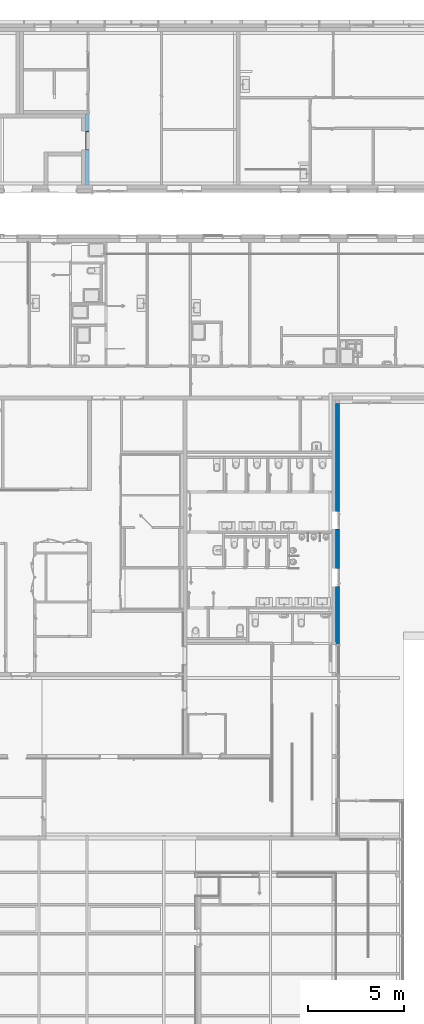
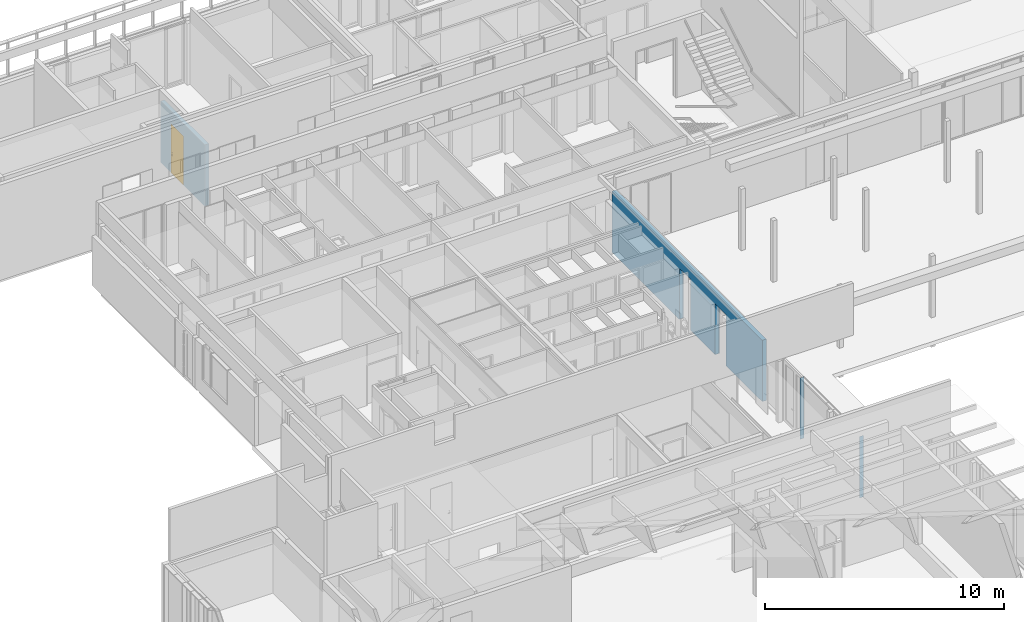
# One storey, part 209 of 240: 1 door, 1 wall, 1 opening, plus 1 element that does not belong to this part.
"""IFC2X3 building model written with IfcOpenShell, lengths in centimetres."""

from ifc_helpers import new_model, entity, si_unit, converted_unit, derived_unit, direction, frame, frame_2d, origin, place, context, subcontext, project, spatial, rectangle, extrude, faceted_brep, source, transform, mapped, material, material_list, layer, layer_set, layer_usage, type_object, type_shapes, element, fill, save


model = new_model("IFC2X3")

# Units and contexts
model_context = context("Model", 3, precision=0.001, world=origin(), true_north=direction((6.12303176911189e-17, 1.0)))
body_context = subcontext(model_context, "Body", "Model", "MODEL_VIEW")
ifc_project = project(units=[si_unit("LENGTHUNIT", "METRE", prefix="CENTI"), si_unit("AREAUNIT", "SQUARE_METRE"), si_unit("VOLUMEUNIT", "CUBIC_METRE"), converted_unit("PLANEANGLEUNIT", "DEGREE", entity("IfcRatioMeasure", 0.0174532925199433), si_unit("PLANEANGLEUNIT", "RADIAN"), dimensions=[0, 0, 0, 0, 0, 0, 0]), si_unit("MASSUNIT", "GRAM", prefix="KILO"), derived_unit("MASSDENSITYUNIT", [(si_unit("MASSUNIT", "GRAM", prefix="KILO"), 1), (si_unit("LENGTHUNIT", "METRE"), -3)]), si_unit("TIMEUNIT", "SECOND"), si_unit("FREQUENCYUNIT", "HERTZ"), si_unit("THERMODYNAMICTEMPERATUREUNIT", "DEGREE_CELSIUS"), derived_unit("THERMALTRANSMITTANCEUNIT", [(si_unit("MASSUNIT", "GRAM", prefix="KILO"), 1), (si_unit("THERMODYNAMICTEMPERATUREUNIT", "KELVIN"), -1), (si_unit("TIMEUNIT", "SECOND"), -3)]), derived_unit("VOLUMETRICFLOWRATEUNIT", [(si_unit("LENGTHUNIT", "METRE"), 3), (si_unit("TIMEUNIT", "SECOND"), -1)]), si_unit("ELECTRICCURRENTUNIT", "AMPERE"), si_unit("ELECTRICVOLTAGEUNIT", "VOLT"), si_unit("POWERUNIT", "WATT"), si_unit("FORCEUNIT", "NEWTON", prefix="KILO"), si_unit("ILLUMINANCEUNIT", "LUX"), si_unit("LUMINOUSFLUXUNIT", "LUMEN"), si_unit("LUMINOUSINTENSITYUNIT", "CANDELA"), derived_unit("USERDEFINED", [(si_unit("MASSUNIT", "GRAM", prefix="KILO"), -1), (si_unit("LENGTHUNIT", "METRE"), -2), (si_unit("TIMEUNIT", "SECOND"), 3), (si_unit("LUMINOUSFLUXUNIT", "LUMEN"), 1)]), derived_unit("LINEARVELOCITYUNIT", [(si_unit("LENGTHUNIT", "METRE"), 1), (si_unit("TIMEUNIT", "SECOND"), -1)]), si_unit("PRESSUREUNIT", "PASCAL"), derived_unit("USERDEFINED", [(si_unit("LENGTHUNIT", "METRE"), -2), (si_unit("MASSUNIT", "GRAM", prefix="KILO"), 1), (si_unit("TIMEUNIT", "SECOND"), -2)])], contexts=[model_context])

# Site, building, storey
site_placement = place(None, frame((-2781.94577612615, 7442.24238424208, 0.0)))
site = spatial("IfcSite", under=ifc_project, at=site_placement, Name="Default", CompositionType="ELEMENT")
building_placement = place(site_placement, origin())
building = spatial("IfcBuilding", under=site, at=building_placement, CompositionType="ELEMENT")
storey_placement = place(building_placement, origin())
storey = spatial("IfcBuildingStorey", under=building, at=storey_placement, Name="N00 - COO", CompositionType="ELEMENT", Elevation=0.0)

# Wall
ifc_material_1 = material(Name="Aluminium bardage")
ifc_layer_1 = layer(ifc_material_1, 0.5)
ifc_material_2 = material(Name="01 - Lame d'air")
ifc_layer_2 = layer(ifc_material_2, 1.5)
ifc_material_3 = material(Name="00 - Isolant")
ifc_layer_3 = layer(ifc_material_3, 18.0)
ifc_layer_set_1 = layer_set([ifc_layer_1, ifc_layer_2, ifc_layer_3], Name="Mur de base:04 - Parement - ITE 18cm + vide 2cm")
wall_type_1 = type_object("IfcWallType", Name="Mur de base:04 - Parement - ITE 18cm + vide 2cm", PredefinedType="STANDARD", material=ifc_layer_set_1)
wall_1_placement = place(building_placement, frame((-8891.93218005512, -4015.27903364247, 0.0), z_axis=(0.0, 0.0, 1.0), x_axis=(0.0, 1.0, 0.0)))
element("IfcWall", 1, at=wall_1_placement, inside=storey, type_object=wall_type_1, Name="Mur de base:04 - Parement - ITE 18cm + vide 2cm", ObjectType="Mur de base:04 - Parement - ITE 18cm + vide 2cm", context=body_context, shape_type="Brep", body=[
    faceted_brep([(0.0, -10.0, 313.0), (0.0, -10.0, 0.0), (0.200000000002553, -10.0, 0.0), (0.200000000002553, -10.0, 313.0), (0.0, 10.0, 0.0), (0.200000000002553, 10.0, 0.0), (0.0, 10.0, 313.0), (0.200000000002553, 10.0, 313.0)], [[[0, 1, 2, 3]], [[1, 4, 5, 2]], [[1, 0, 6, 4]], [[3, 2, 5, 7]], [[6, 0, 3, 7]], [[4, 6, 7, 5]]]),
    faceted_brep([(1205.19999999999, 10.0, 0.0), (1205.19999999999, 10.0, 260.0), (1112.2, 10.0, 260.0), (1112.2, 10.0, 0.0), (824.200000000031, 10.0, 0.0), (810.2, 10.0, 0.0), (810.2, 10.0, 313.0), (2065.20000000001, 10.0, 313.0), (2065.20000000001, 10.0, 0.0), (1503.2, 10.0, 0.0), (1503.2, 10.0, 260.0), (1410.20000000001, 10.0, 260.0), (1410.20000000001, 10.0, 0.0), (2065.20000000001, -10.0, 313.0), (810.2, -10.0, 313.0), (1114.2, -8.79999999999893, 258.0), (1114.2, -10.0, 258.0), (1114.2, -10.0, 0.0), (1114.2, -8.79999999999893, 0.0), (1203.2, -8.7999999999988, 258.0), (1203.2, -8.7999999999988, 0.0), (1203.2, -10.0, 0.0), (1203.2, -10.0, 258.0), (1112.2, -8.79999999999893, 0.0), (1112.2, -8.79999999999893, 260.0), (1205.19999999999, -8.79999999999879, 260.0), (1205.19999999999, -8.79999999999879, 0.0), (1205.19999999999, -8.0, 0.0), (1112.2, -8.0, 0.0), (1501.2, -10.0, 258.0), (1501.2, -8.80000000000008, 258.0), (1501.2, -8.80000000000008, 0.0), (1501.2, -10.0, 0.0), (1412.2, -8.80000000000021, 0.0), (1412.2, -8.80000000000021, 258.0), (1412.2, -10.0, 258.0), (1412.2, -10.0, 0.0), (1410.20000000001, -8.80000000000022, 0.0), (1410.20000000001, -8.80000000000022, 260.0), (1503.2, -8.80000000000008, 260.0), (1503.2, -8.80000000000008, 0.0), (1410.20000000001, -8.0, 0.0), (1503.2, -8.0, 0.0), (810.2, -10.0, 0.0), (2065.20000000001, -10.0, 0.0)], [[[0, 1, 2, 3, 4, 5, 6, 7, 8, 9, 10, 11, 12]], [[13, 7, 6, 14]], [[15, 16, 17, 18]], [[19, 20, 21, 22]], [[15, 19, 22, 16]], [[19, 15, 18, 23, 24, 25, 26, 20]], [[26, 25, 1, 0, 27]], [[24, 23, 28, 3, 2]], [[25, 24, 2, 1]], [[29, 30, 31, 32]], [[33, 34, 35, 36]], [[34, 30, 29, 35]], [[30, 34, 33, 37, 38, 39, 40, 31]], [[38, 37, 41, 12, 11]], [[40, 39, 10, 9, 42]], [[39, 38, 11, 10]], [[43, 14, 6, 5]], [[13, 44, 8, 7]], [[21, 20, 26, 27, 0, 12, 41, 37, 33, 36]], [[32, 31, 40, 42, 9, 8, 44]], [[18, 17, 43, 5, 4, 3, 28, 23]], [[17, 16, 22, 21, 36, 35, 29, 32, 44, 13, 14, 43]]]),
    faceted_brep([(494.507227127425, -10.0, 313.0), (494.507227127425, -10.0, 0.0), (494.507227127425, 10.0, 0.0), (494.507227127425, 10.0, 313.0), (494.200000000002, -10.0, 0.0), (494.200000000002, -10.0, 313.0), (494.200000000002, 10.0, 313.0), (494.200000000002, 10.0, 0.0)], [[[0, 1, 2, 3]], [[4, 5, 6, 7]], [[0, 3, 6, 5]], [[2, 1, 4, 7]], [[3, 2, 7, 6]], [[1, 0, 5, 4]]]),
])

# Wall, opening, door
ifc_layer_4 = layer(ifc_material_3, 17.7)
ifc_material_4 = material(Name="01 - Enduit/Plâtre")
ifc_layer_5 = layer(ifc_material_4, 1.3)
ifc_layer_set_2 = layer_set([ifc_layer_4, ifc_layer_5], Name="Mur de base:04 - Parement -  isolant 20 cm + BA13 2")
ifc_layer_usage = layer_usage(ifc_layer_set_2, "AXIS2", "POSITIVE", -9.5)
wall_type_2 = type_object("IfcWallType", Name="Mur de base:04 - Parement -  isolant 20 cm + BA13 2", PredefinedType="STANDARD", material=ifc_layer_set_2)
wall_2_placement = place(building_placement, frame((-10196.9998776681, -440.0, 0.0), z_axis=(0.0, 0.0, 1.0), x_axis=(0.0, -1.0, 0.0)))
wall_2 = element("IfcWallStandardCase", 2, at=wall_2_placement, inside=storey, type_object=wall_type_2, material=ifc_layer_usage, Name="Mur de base:04 - Parement -  isolant 20 cm + BA13 2", ObjectType="Mur de base:04 - Parement -  isolant 20 cm + BA13 2", context=body_context, shape_type="SweptSolid", body=[
    extrude(rectangle(XDim=370.0, YDim=18.9999999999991, at=frame_2d((185.0, 0.0), x_axis=(-1.0, 0.0))), origin(), (0.0, 0.0, 1.0), 313.0),
])
opening_placement = place(wall_2_placement, frame((189.0, 9.5, 0.0)))
opening = element("IfcOpeningElement", 3, at=opening_placement, cuts=wall_2, Name="Int. Simple:PP simple (0.93m x 2.50m):1", ObjectType="Opening", context=body_context, shape_type="SweptSolid", body=[
    extrude(rectangle(XDim=248.500000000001, YDim=99.9999999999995, at=frame_2d((124.250000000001, 49.9999999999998), x_axis=(1.0, 0.0))), frame((0.0, 0.0, 0.0), z_axis=(0.0, -1.0, 0.0), x_axis=(0.0, 0.0, 1.0)), (0.0, 0.0, 1.0), 19.0),
])
ifc_material_5 = material(Name="Finition Peinture - Blanc satiné")
ifc_material_6 = material(Name="Bois - Panneau de porte")
ifc_material_7 = material(Name="Bois - Cadre de porte")
ifc_material_list_1 = material_list([ifc_material_5, ifc_material_6, ifc_material_7])
ifc_material_list_2 = material_list([ifc_material_5, ifc_material_6, ifc_material_7])
door_style = type_object("IfcDoorStyle", Name="PP simple (0.93m x 2.50m)", ConstructionType="NOTDEFINED", OperationType="SINGLE_SWING_LEFT", ParameterTakesPrecedence=False, Sizeable=False, material=ifc_material_list_2)
shared_shape = source(origin(), body_context, "Body", "Brep", [
    faceted_brep([(10.5352761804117, -0.500000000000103, 86.6003983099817), (11.5000000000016, -0.500000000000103, 87.0), (11.5000000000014, -0.500000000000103, 108.0), (10.5352761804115, -0.500000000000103, 108.399601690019), (9.50000000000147, -0.500000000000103, 108.535898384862), (8.46472381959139, -0.500000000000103, 108.399601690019), (7.50000000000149, -0.500000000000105, 108.0), (7.50000000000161, -0.500000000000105, 87.0), (8.46472381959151, -0.500000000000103, 86.6003983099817), (9.50000000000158, -0.500000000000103, 86.464101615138), (10.5352761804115, 0.0, 108.399601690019), (11.5000000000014, 0.0, 108.0), (11.5000000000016, 0.0, 87.0), (10.5352761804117, 0.0, 86.6003983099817), (9.50000000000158, 0.0, 86.464101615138), (8.46472381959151, 0.0, 86.6003983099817), (7.50000000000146, 0.0, 87.0), (7.50000000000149, 0.0, 108.0), (8.46472381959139, 0.0, 108.399601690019), (9.50000000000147, 0.0, 108.535898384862)], [[[0, 1, 2, 3, 4, 5, 6, 7, 8, 9]], [[10, 11, 12, 13, 14, 15, 16, 17, 18, 19]], [[16, 15, 8, 7]], [[8, 15, 14, 9]], [[14, 13, 0, 9]], [[13, 12, 1, 0]], [[2, 1, 12, 11]], [[11, 10, 3, 2]], [[3, 10, 19, 4]], [[19, 18, 5, 4]], [[18, 17, 6, 5]], [[7, 6, 17, 16]]]),
    faceted_brep([(10.5352761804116, 4.0, 86.6003983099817), (11.5000000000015, 4.0, 87.0), (11.5000000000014, 4.0, 108.0), (10.5352761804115, 4.0, 108.399601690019), (9.50000000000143, 4.0, 108.535898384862), (8.46472381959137, 4.0, 108.399601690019), (7.50000000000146, 4.0, 108.0), (7.50000000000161, 4.0, 87.0), (8.46472381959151, 4.0, 86.6003983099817), (9.50000000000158, 4.0, 86.464101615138), (10.5352761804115, 4.49999999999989, 108.399601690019), (11.5000000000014, 4.4999999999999, 108.0), (11.5000000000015, 4.4999999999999, 87.0), (10.5352761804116, 4.49999999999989, 86.6003983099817), (9.50000000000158, 4.49999999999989, 86.464101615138), (8.46472381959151, 4.49999999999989, 86.6003983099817), (7.50000000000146, 4.49999999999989, 87.0), (7.50000000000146, 4.49999999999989, 108.0), (8.46472381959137, 4.49999999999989, 108.399601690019), (9.50000000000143, 4.49999999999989, 108.535898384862)], [[[0, 1, 2, 3, 4, 5, 6, 7, 8, 9]], [[10, 11, 12, 13, 14, 15, 16, 17, 18, 19]], [[11, 10, 3, 2]], [[3, 10, 19, 4]], [[19, 18, 5, 4]], [[18, 17, 6, 5]], [[7, 6, 17, 16]], [[16, 15, 8, 7]], [[8, 15, 14, 9]], [[14, 13, 0, 9]], [[13, 12, 1, 0]], [[2, 1, 12, 11]]]),
    faceted_brep([(9.29747013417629, -0.500000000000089, 100.778044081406), (9.70252986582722, -0.500000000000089, 100.778044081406), (10.1000000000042, -0.500000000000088, 100.699999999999), (10.1000000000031, -0.500000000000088, 99.3000000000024), (9.7025298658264, -0.500000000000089, 99.2219559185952), (9.29747013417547, -0.500000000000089, 99.221955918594), (8.8999999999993, -0.500000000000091, 99.2999999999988), (8.89999999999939, -0.500000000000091, 100.7), (8.89999999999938, -3.26509507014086, 100.7), (9.29747013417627, -3.10045754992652, 100.778044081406), (10.9023585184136, -4.70534593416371, 100.778044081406), (11.0701397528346, -4.30028620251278, 100.778044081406), (9.7025298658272, -2.93267631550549, 100.778044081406), (10.1000000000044, -2.76803879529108, 100.7), (10.1000000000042, -2.76803879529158, 99.3000000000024), (9.7025298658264, -2.93267631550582, 99.2219559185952), (11.0701397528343, -4.30028620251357, 99.2219559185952), (10.9023585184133, -4.70534593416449, 99.221955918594), (9.29747013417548, -3.10045754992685, 99.221955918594), (8.89999999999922, -3.26509507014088, 99.2999999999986), (10.7377209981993, -5.1028160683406, 100.7), (11.2347772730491, -3.90281606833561, 100.7), (11.2347772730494, -3.90281606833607, 99.3000000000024), (10.7377209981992, -5.10281606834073, 99.2999999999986), (19.5018640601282, -5.1028160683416, 99.2999999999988), (19.5018640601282, -4.70534593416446, 99.221955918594), (19.5018640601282, -4.30028620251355, 99.2219559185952), (19.5018640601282, -3.90281606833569, 99.3000000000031), (19.5018640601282, -3.90281606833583, 100.7), (19.5018640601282, -4.30028620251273, 100.778044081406), (19.5018640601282, -4.70534593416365, 100.778044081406), (19.5018640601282, -5.10281606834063, 100.699999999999), (14.7307697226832, -5.10281606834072, 100.7), (15.2860019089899, -4.5028160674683, 100.78786867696), (15.3683206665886, -3.9028160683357, 100.7), (15.3683206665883, -3.90281606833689, 99.3000000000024), (15.2860018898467, -4.50281607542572, 99.2121313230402), (14.7307700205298, -5.10281606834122, 99.2999999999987)], [[[0, 1, 2, 3, 4, 5, 6, 7]], [[8, 9, 0, 7]], [[9, 10, 11, 12, 1, 0]], [[12, 13, 2, 1]], [[3, 2, 13, 14]], [[14, 15, 4, 3]], [[15, 16, 17, 18, 5, 4]], [[18, 19, 6, 5]], [[7, 6, 19, 8]], [[20, 10, 9, 8]], [[11, 21, 13, 12]], [[14, 13, 21, 22]], [[22, 16, 15, 14]], [[17, 23, 19, 18]], [[8, 19, 23, 20]], [[24, 25, 26, 27, 28, 29, 30, 31]], [[32, 30, 33]], [[31, 30, 32]], [[10, 20, 32]], [[33, 34, 11]], [[21, 11, 34]], [[34, 29, 28]], [[30, 29, 33]], [[29, 34, 33]], [[10, 32, 33]], [[10, 33, 11]], [[22, 21, 34, 28, 27, 35]], [[35, 26, 36]], [[37, 36, 25]], [[22, 35, 16]], [[35, 27, 26]], [[24, 37, 25]], [[23, 17, 37]], [[37, 17, 36]], [[17, 16, 36]], [[16, 35, 36]], [[25, 36, 26]], [[20, 23, 37, 24, 31, 32]]]),
    faceted_brep([(9.29747013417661, 4.49999999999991, 100.778044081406), (8.89999999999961, 4.49999999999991, 100.7), (8.89999999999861, 4.49999999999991, 99.2999999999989), (9.29747013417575, 4.49999999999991, 99.221955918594), (9.70252986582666, 4.49999999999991, 99.2219559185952), (10.1000000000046, 4.49999999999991, 99.3000000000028), (10.1000000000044, 4.49999999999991, 100.7), (9.70252986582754, 4.49999999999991, 100.778044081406), (10.1000000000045, 6.7485204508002, 99.3000000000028), (10.1000000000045, 6.74852045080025, 100.7), (9.70252986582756, 6.91315797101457, 100.778044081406), (11.083890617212, 8.29451872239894, 100.778044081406), (10.916109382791, 8.69957845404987, 100.778044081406), (9.29747013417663, 7.0809392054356, 100.778044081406), (8.89999999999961, 7.24557672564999, 100.7), (8.89999999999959, 7.24557672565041, 99.2999999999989), (9.29747013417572, 7.08093920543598, 99.221955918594), (10.9161093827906, 8.69957845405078, 99.221955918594), (11.0838906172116, 8.29451872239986, 99.2219559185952), (9.70252986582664, 6.91315797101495, 99.2219559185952), (11.2485281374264, 7.89704858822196, 99.3000000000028), (11.2485281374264, 7.89704858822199, 100.7), (10.7514718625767, 9.0970485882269, 100.7), (10.7514718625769, 9.0970485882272, 99.2999999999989), (19.5045783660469, 7.89704858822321, 99.3000000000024), (19.5045783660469, 8.29451872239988, 99.2219559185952), (19.5045783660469, 8.6995784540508, 99.221955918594), (19.5045783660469, 9.09704858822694, 99.2999999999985), (19.5045783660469, 9.09704858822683, 100.7), (19.5045783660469, 8.69957845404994, 100.778044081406), (19.5045783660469, 8.29451872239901, 100.778044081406), (19.5045783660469, 7.89704858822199, 100.7), (15.3765520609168, 7.89704858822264, 99.3000000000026), (15.3765532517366, 7.89704858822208, 100.7), (15.294234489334, 8.49704858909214, 100.78786867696), (14.7445205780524, 9.09704858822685, 100.7), (14.7445204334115, 9.09704858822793, 99.2999999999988), (15.2942345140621, 8.49704858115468, 99.2121313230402)], [[[0, 1, 2, 3, 4, 5, 6, 7]], [[6, 5, 8, 9]], [[9, 10, 7, 6]], [[10, 11, 12, 13, 0, 7]], [[13, 14, 1, 0]], [[2, 1, 14, 15]], [[15, 16, 3, 2]], [[16, 17, 18, 19, 4, 3]], [[19, 8, 5, 4]], [[9, 8, 20, 21]], [[21, 11, 10, 9]], [[12, 22, 14, 13]], [[15, 14, 22, 23]], [[23, 17, 16, 15]], [[18, 20, 8, 19]], [[24, 25, 26, 27, 28, 29, 30, 31]], [[21, 20, 32, 24, 31, 33]], [[33, 30, 34]], [[35, 34, 29]], [[21, 33, 11]], [[33, 31, 30]], [[28, 35, 29]], [[22, 12, 35]], [[35, 12, 34]], [[12, 11, 34]], [[11, 33, 34]], [[29, 34, 30]], [[22, 35, 28, 27, 36, 23]], [[36, 26, 37]], [[27, 26, 36]], [[17, 23, 36]], [[37, 32, 18]], [[20, 18, 32]], [[32, 25, 24]], [[26, 25, 37]], [[25, 32, 37]], [[17, 36, 37]], [[17, 37, 18]]]),
    faceted_brep([(3.50000000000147, 4.0, 245.0), (96.5000000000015, 4.0, 245.0), (96.5000000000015, 4.0, 0.0), (3.50000000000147, 4.0, 0.0), (3.50000000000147, 0.0, 245.0), (3.50000000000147, 0.0, 0.0), (96.5000000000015, 0.0, 0.0), (96.5000000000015, 0.0, 245.0)], [[[0, 1, 2, 3]], [[4, 5, 6, 7]], [[1, 0, 4, 7]], [[2, 1, 7, 6]], [[3, 2, 6, 5]], [[0, 3, 5, 4]]]),
    faceted_brep([(0.0, 19.0, 0.0), (-1.50000000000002, 19.0, 0.0), (-1.50000000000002, 19.5000000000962, 0.0), (5.0, 19.5000000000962, 0.0), (5.0, 4.0, 0.0), (3.50000000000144, 4.0, 0.0), (3.50000000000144, -0.5, 0.0), (-1.50000000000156, -0.5, 0.0), (-1.50000000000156, 0.0, 0.0), (0.0, 0.0, 0.0), (0.0, 0.0, 248.500000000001), (0.0, 19.0, 248.500000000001), (100.0, 19.0, 248.500000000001), (100.0, 19.0, 0.0), (101.5, 19.0, 0.0), (101.5, 19.0, 250.0), (-1.50000000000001, 19.0, 250.0), (5.0, 19.5000000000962, 243.5), (5.0, 4.0, 243.5), (95.0, 4.0, 243.5), (95.0, 4.0, 0.0), (96.499999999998, 4.0, 0.0), (96.499999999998, 4.0, 245.0), (3.50000000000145, 4.0, 245.0), (100.0, 0.0, 248.500000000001), (100.0, 0.0, 0.0), (101.500000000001, 0.0, 0.0), (101.500000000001, -0.5, 0.0), (96.499999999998, -0.5, 0.0), (95.0, 19.5000000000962, 0.0), (101.5, 19.5000000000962, 0.0), (95.0, 19.5000000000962, 243.5), (3.50000000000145, -0.5, 245.0), (96.499999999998, -0.5, 245.0), (101.500000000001, -0.5, 250.0), (-1.50000000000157, -0.5, 250.0), (-1.50000000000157, 0.0, 250.0), (101.500000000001, 0.0, 250.0), (-1.50000000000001, 19.5000000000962, 250.0), (101.5, 19.5000000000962, 250.0)], [[[0, 1, 2, 3, 4, 5, 6, 7, 8, 9]], [[0, 9, 10, 11]], [[1, 0, 11, 12, 13, 14, 15, 16]], [[3, 17, 18, 4]], [[5, 4, 18, 19, 20, 21, 22, 23]], [[12, 24, 25, 13]], [[13, 25, 26, 27, 28, 21, 20, 29, 30, 14]], [[19, 31, 29, 20]], [[11, 10, 24, 12]], [[18, 17, 31, 19]], [[5, 23, 32, 6]], [[7, 6, 32, 33, 28, 27, 34, 35]], [[8, 7, 35, 36]], [[9, 8, 36, 37, 26, 25, 24, 10]], [[2, 1, 16, 38]], [[3, 2, 38, 39, 30, 29, 31, 17]], [[33, 22, 21, 28]], [[37, 34, 27, 26]], [[39, 15, 14, 30]], [[32, 23, 22, 33]], [[36, 35, 34, 37]], [[38, 16, 15, 39]]]),
])
type_shapes(door_style, [shared_shape])
door_placement = place(opening_placement, frame((-100.0, -19.0, 0.0)))
door = element("IfcDoor", 4, at=door_placement, inside=storey, type_object=door_style, material=ifc_material_list_1, Name="Int. Simple:PP simple (0.93m x 2.50m)", ObjectType="Int. Simple:PP simple (0.93m x 2.50m)", OverallHeight=248.500000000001, OverallWidth=99.9999999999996, context=body_context, shape_type="MappedRepresentation", body=[
    mapped(shared_shape, transform((0.0, 0.0, 0.0), scale=1.0)),
])
fill(opening, door)

save(model, "model.ifc")
